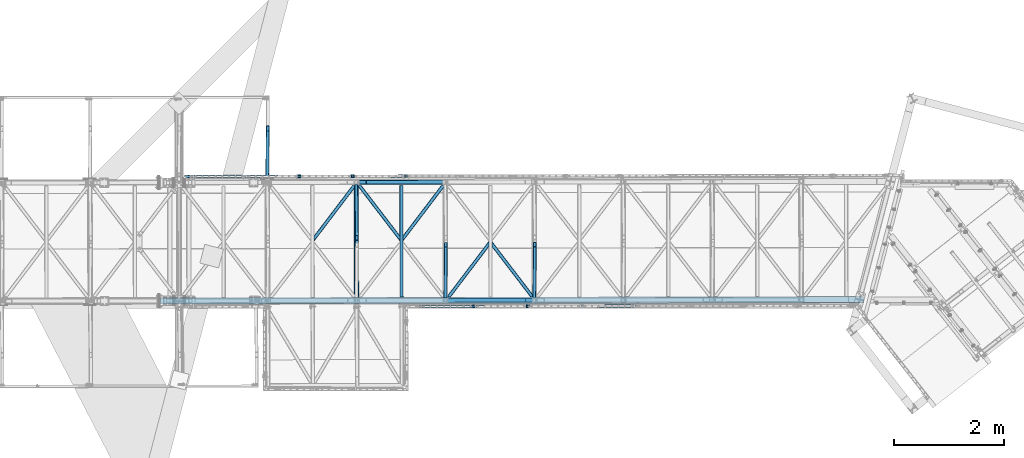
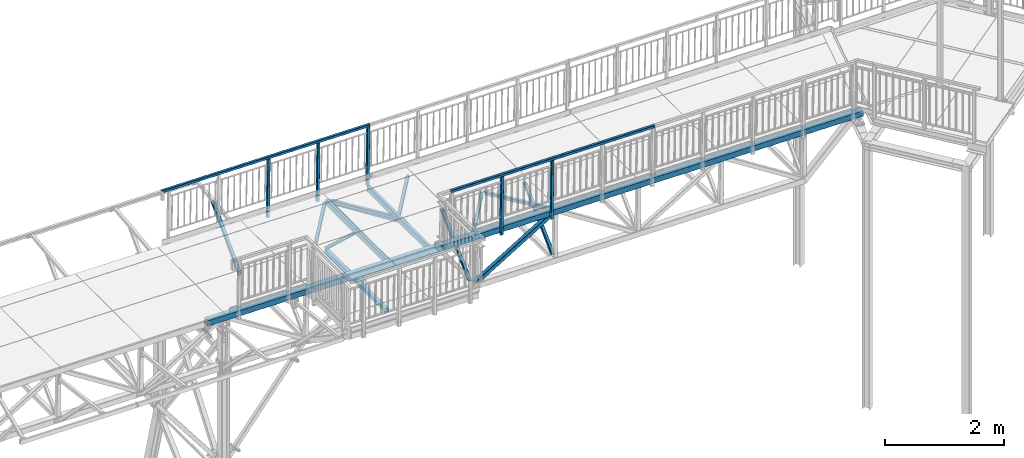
# One storey, part 57 of 169: 22 discrete accessories, 5 elements without a shape of their own.
"""IFC2X3 building model written with IfcOpenShell, lengths in millimetres."""

import ifcopenshell
import ifcopenshell.guid

model = None  # the IFC model being written
_history = None  # IfcOwnerHistory: only IFC2X3 demands one
_inside = {}  # id of a spatial element -> (the spatial element, [elements in it])
_under = {}  # id of a project, library or spatial element -> (it, [spatial elements below it])
_declared = {}  # id of a project -> (the project, [libraries it declares])
_typed = {}  # id of a type object -> (the type object, [elements of that type])
_made_of = {}  # id of a material, layer set ... -> (it, [elements and type objects made of it])


def new_model(schema):
    """Start an empty IFC model of exactly this schema.

    Asked for "IFC4X3", IfcOpenShell would pick the latest addendum, in which some entities
    have other attributes; the version numbers below select the first issue.
    IFC2X3 requires an IfcOwnerHistory on every rooted entity: one is made here for all.
    """
    global model, _history
    if schema == "IFC4X3":
        model = ifcopenshell.file(schema_version=(4, 3, 0, 0))
    else:
        model = ifcopenshell.file(schema=schema)
    _inside.clear()
    _under.clear()
    _declared.clear()
    _typed.clear()
    _made_of.clear()
    _history = None
    if model.schema == "IFC2X3":
        org = make("IfcOrganization", Name="unknown")
        user = make(
            "IfcPersonAndOrganization",
            ThePerson=make("IfcPerson", FamilyName="unknown"),
            TheOrganization=org,
        )
        app = make(
            "IfcApplication",
            ApplicationDeveloper=org,
            Version="unknown",
            ApplicationFullName="unknown",
            ApplicationIdentifier="unknown",
        )
        _history = make(
            "IfcOwnerHistory",
            OwningUser=user,
            OwningApplication=app,
            ChangeAction="ADDED",
            CreationDate=0,
        )
    return model


def make(cls, **values):
    """One entity of the class cls with the attributes given. An attribute that is None is left unset."""
    return model.create_entity(
        cls, **{name: value for name, value in values.items() if value is not None}
    )


def rooted(cls, **values):
    """An entity with a GlobalId (a new one), such as an element, a storey or a relation."""
    return make(cls, GlobalId=ifcopenshell.guid.new(), OwnerHistory=_history, **values)


def si_unit(unit_type, name, prefix=None):
    """IfcSIUnit, for example si_unit("LENGTHUNIT", "METRE", prefix="MILLI")."""
    return make("IfcSIUnit", UnitType=unit_type, Prefix=prefix, Name=name)


def assignment(units):
    """IfcUnitAssignment: the units of a project."""
    return None if units is None else make("IfcUnitAssignment", Units=units)


def point(xyz):
    """IfcCartesianPoint."""
    return None if xyz is None else make("IfcCartesianPoint", Coordinates=xyz)


def direction(xyz):
    """IfcDirection."""
    return None if xyz is None else make("IfcDirection", DirectionRatios=xyz)


def frame(location, z_axis=None, x_axis=None):
    """IfcAxis2Placement3D, a coordinate frame: its origin and axes. An axis left out is left unset."""
    return make(
        "IfcAxis2Placement3D",
        Location=point(location),
        Axis=direction(z_axis),
        RefDirection=direction(x_axis),
    )


def frame_2d(location, x_axis=None):
    """IfcAxis2Placement2D, a coordinate frame in the plane: its origin and x axis."""
    return make(
        "IfcAxis2Placement2D", Location=point(location), RefDirection=direction(x_axis)
    )


def origin_with_axes():
    """The frame at (0, 0, 0) with the z axis (0, 0, 1) and the x axis (1, 0, 0) written out."""
    return frame((0.0, 0.0, 0.0), z_axis=(0.0, 0.0, 1.0), x_axis=(1.0, 0.0, 0.0))


def origin_2d_with_axis():
    """The frame at (0, 0) in the plane with the x axis (1, 0) written out."""
    return frame_2d((0.0, 0.0), x_axis=(1.0, 0.0))


def place(relative_to, where):
    """IfcLocalPlacement: puts the frame where relative to a parent placement (None: the world)."""
    return make(
        "IfcLocalPlacement", PlacementRelTo=relative_to, RelativePlacement=where
    )


def context(
    kind, dimensions, precision=None, world=None, true_north=None, identifier=None
):
    """IfcGeometricRepresentationContext, for example the 3D "Model" context."""
    return make(
        "IfcGeometricRepresentationContext",
        ContextIdentifier=identifier,
        ContextType=kind,
        CoordinateSpaceDimension=dimensions,
        Precision=precision,
        WorldCoordinateSystem=world,
        TrueNorth=true_north,
    )


def subcontext(parent, identifier, kind, view, scale=None):
    """IfcGeometricRepresentationSubContext, for example "Body" below "Model"."""
    return make(
        "IfcGeometricRepresentationSubContext",
        ContextIdentifier=identifier,
        ContextType=kind,
        ParentContext=parent,
        TargetScale=scale,
        TargetView=view,
    )


def project(units=None, contexts=None):
    """IfcProject with its units and contexts."""
    return rooted(
        "IfcProject",
        Name="project",
        RepresentationContexts=contexts,
        UnitsInContext=assignment(units),
    )


def spatial(cls, under=None, at=None, **own):
    """A site, building, storey or space (cls), placed at a placement, below another one or the project."""
    s = rooted(cls, ObjectPlacement=at, **own)
    if under is not None:
        _under.setdefault(under.id(), (under, []))[1].append(s)
    return s


def profile(cls, at=None, kind="AREA", **sizes):
    """A parametric profile (cls). Its sizes go by their IFC names, for example OverallWidth=200.0."""
    return make(cls, ProfileType=kind, Position=at, **sizes)


def rectangle(**sizes):
    """IfcRectangleProfileDef."""
    return profile("IfcRectangleProfileDef", **sizes)


def hollow_rectangle(**sizes):
    """IfcRectangleHollowProfileDef."""
    return profile("IfcRectangleHollowProfileDef", **sizes)


def extrude(swept, where, along, depth):
    """IfcExtrudedAreaSolid: the profile swept, set in the frame where, extruded along a direction by depth."""
    return make(
        "IfcExtrudedAreaSolid",
        SweptArea=swept,
        Position=where,
        ExtrudedDirection=direction(along),
        Depth=depth,
    )


def boolean(op, a, b):
    """IfcBooleanResult of two solids."""
    return make("IfcBooleanResult", Operator=op, FirstOperand=a, SecondOperand=b)


def clip(a, b, op="DIFFERENCE"):
    """IfcBooleanClippingResult: the solid a cut by the half space b."""
    return make(
        "IfcBooleanClippingResult", Operator=op, FirstOperand=a, SecondOperand=b
    )


def halfspace(plane, agree):
    """IfcHalfSpaceSolid: all space on one side of the plane z = 0 of the frame plane."""
    return make(
        "IfcHalfSpaceSolid",
        BaseSurface=make("IfcPlane", Position=plane),
        AgreementFlag=agree,
    )


def shape(context_of_items, identifier, shape_type, items):
    """IfcShapeRepresentation: the items that make up one representation, for example the "Body"."""
    return make(
        "IfcShapeRepresentation",
        ContextOfItems=context_of_items,
        RepresentationIdentifier=identifier,
        RepresentationType=shape_type,
        Items=items,
    )


def material(Name=None, Category=None):
    """IfcMaterial."""
    return make("IfcMaterial", Name=Name, Category=Category)


def made_of(thing, what):
    """Note that an element or type object is made of a material, layer set ...; save() writes the relation."""
    if what is not None:
        _made_of.setdefault(what.id(), (what, []))[1].append(thing)
    return thing


def type_object(cls, material=None, **own):
    """A type object (cls), such as IfcWallType, which elements share."""
    return made_of(rooted(cls, **own), material)


def element(
    cls,
    number,
    at=None,
    inside=None,
    cuts=None,
    type_object=None,
    material=None,
    context=None,
    identifier="Body",
    shape_type=None,
    held_by="IfcProductDefinitionShape",
    body=None,
    shapes=None,
    **own,
):
    """One element of the class cls, such as IfcWall. Its Tag is "e" and its number.

    at: its placement. inside: the storey or other place that contains it. cuts: it is an
    opening in that element (IfcRelVoidsElement). A single representation is given by context,
    identifier, shape_type and body (its items); several are given by shapes. held_by: the class
    of the entity that holds the representations. save() writes the other relations.
    """
    e = rooted(cls, Tag="e%d" % number, ObjectPlacement=at, **own)
    if body is not None:
        shapes = [shape(context, identifier, shape_type, body)]
    if shapes is not None:
        e.Representation = make(held_by, Representations=shapes)
    if inside is not None:
        _inside.setdefault(inside.id(), (inside, []))[1].append(e)
    if cuts is not None:
        rooted(
            "IfcRelVoidsElement", RelatingBuildingElement=cuts, RelatedOpeningElement=e
        )
    if type_object is not None:
        _typed.setdefault(type_object.id(), (type_object, []))[1].append(e)
    return made_of(e, material)


def aggregate(whole, parts):
    """IfcRelAggregates: a whole, such as a stair, and the parts it consists of."""
    return rooted("IfcRelAggregates", RelatingObject=whole, RelatedObjects=parts)


def save(model, path):
    """Write the relations noted so far, then the file.

    IfcRelAggregates (storeys below a building ...), IfcRelContainedInSpatialStructure (elements
    in a storey), IfcRelDefinesByType, IfcRelAssociatesMaterial and IfcRelDeclares: one each for
    every whole, place, type object, material and project.
    """
    for whole, parts in _under.values():
        aggregate(whole, parts)
    for where, things in _inside.values():
        rooted(
            "IfcRelContainedInSpatialStructure",
            RelatedElements=things,
            RelatingStructure=where,
        )
    for kind, things in _typed.values():
        rooted("IfcRelDefinesByType", RelatedObjects=things, RelatingType=kind)
    for what, things in _made_of.values():
        rooted("IfcRelAssociatesMaterial", RelatedObjects=things, RelatingMaterial=what)
    for by, libraries in _declared.values():
        rooted("IfcRelDeclares", RelatingContext=by, RelatedDefinitions=libraries)
    model.write(path)


model = new_model("IFC2X3")

# Units and contexts
model_context = context("Model", 3, precision=1e-05, world=origin_with_axes())
body_context = subcontext(model_context, "Body", "Model", "MODEL_VIEW")
ifc_project = project(units=[si_unit("LENGTHUNIT", "METRE", prefix="MILLI"), si_unit("AREAUNIT", "SQUARE_METRE"), si_unit("VOLUMEUNIT", "CUBIC_METRE"), si_unit("MASSUNIT", "GRAM", prefix="KILO"), si_unit("TIMEUNIT", "SECOND"), si_unit("PLANEANGLEUNIT", "RADIAN"), si_unit("SOLIDANGLEUNIT", "STERADIAN"), si_unit("THERMODYNAMICTEMPERATUREUNIT", "DEGREE_CELSIUS"), si_unit("LUMINOUSINTENSITYUNIT", "LUMEN")], contexts=[model_context])

# Site, building, storey
site_placement = place(None, origin_with_axes())
site = spatial("IfcSite", under=ifc_project, at=site_placement, Name="Undefined", CompositionType="ELEMENT")
building_placement = place(site_placement, origin_with_axes())
building = spatial("IfcBuilding", under=site, at=building_placement, Name="Undefined", CompositionType="ELEMENT")
storey_placement = place(building_placement, origin_with_axes())
storey = spatial("IfcBuildingStorey", under=building, at=storey_placement, Name="Undefined", CompositionType="ELEMENT", Elevation=0.0)

# Assembly, discrete accessory
assembly_1_placement = place(storey_placement, origin_with_axes())
assembly_1 = element("IfcElementAssembly", 1, at=assembly_1_placement, inside=storey, Name="Steel Assembly", AssemblyPlace="NOTDEFINED", PredefinedType="RIGID_FRAME")
ifc_material_1 = material(Name="STEEL/S355")
discrete_accessory_type_1 = type_object("IfcDiscreteAccessoryType", Name="BEAM")
discrete_accessory_1_placement = place(assembly_1_placement, frame((7715.71586938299, 2318.92688619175, 12843.0393475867), z_axis=(-0.999917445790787, -0.00186469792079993, 0.0127131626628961), x_axis=(0.00767090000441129, 0.707122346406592, 0.70704960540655)))
discrete_accessory_1 = element("IfcDiscreteAccessory", 2, at=discrete_accessory_1_placement, type_object=discrete_accessory_type_1, material=ifc_material_1, Name="BEAM", ObjectType="SHS60*3", context=body_context, shape_type="Clipping", body=[
    clip(clip(extrude(hollow_rectangle(XDim=60.0, YDim=60.0, WallThickness=3.0, InnerFilletRadius=3.0, OuterFilletRadius=6.0, at=origin_2d_with_axis()), frame((1369.14752563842, 1.89499235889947e-12, 0.0), z_axis=(-1.0, -3.46944695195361e-18, -1.38777878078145e-17), x_axis=(1.73472347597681e-18, -1.0, 0.0)), (0.0, 0.0, 1.0), 1419.91), halfspace(frame((1329.20790811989, 23.56066933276, 999.999999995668), z_axis=(-0.619044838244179, 0.785355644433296, -1.17904057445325e-10), x_axis=(-0.785355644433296, -0.619044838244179, 2.44605871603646e-10)), True)), halfspace(frame((19.0633294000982, -4.54747350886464e-12, -29.9999999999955), z_axis=(0.707106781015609, 0.707106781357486, 0.0), x_axis=(0.707106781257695, -0.7071067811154, 8.78533101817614e-11)), True)),
])
aggregate(assembly_1, [discrete_accessory_1])

assembly_2_placement = place(storey_placement, origin_with_axes())
assembly_2 = element("IfcElementAssembly", 3, at=assembly_2_placement, inside=storey, Name="Steel Assembly", AssemblyPlace="NOTDEFINED", PredefinedType="RIGID_FRAME")
discrete_accessory_2_placement = place(assembly_2_placement, frame((10939.7171689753, 125.415057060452, 12815.1018988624), z_axis=(-0.516782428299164, -0.000963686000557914, 0.856116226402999), x_axis=(0.856114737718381, 0.00159654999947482, 0.516783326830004)))
discrete_accessory_2 = element("IfcDiscreteAccessory", 4, at=discrete_accessory_2_placement, type_object=discrete_accessory_type_1, material=ifc_material_1, Name="BEAM", ObjectType="K80/4", context=body_context, shape_type="CSG", body=[
    boolean("DIFFERENCE", boolean("DIFFERENCE", boolean("DIFFERENCE", boolean("DIFFERENCE", extrude(hollow_rectangle(XDim=80.0, YDim=80.0, WallThickness=4.0, InnerFilletRadius=4.0, OuterFilletRadius=8.0, at=origin_2d_with_axis()), frame((1895.28365458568, 2.8368149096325e-14, 0.0), z_axis=(-1.0, -3.46944695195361e-18, -1.38777878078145e-17), x_axis=(1.73472347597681e-18, -1.0, 0.0)), (0.0, 0.0, 1.0), 1895.28), extrude(rectangle(XDim=122.0, YDim=122.0, at=origin_2d_with_axis()), frame((3629.06675415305, -2.8717456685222e-06, -1076.88375378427), z_axis=(-0.849477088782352, -3.93457825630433e-11, 0.527625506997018), x_axis=(-0.527625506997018, 2.00772915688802e-10, -0.849477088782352)), (0.0, 0.0, 1.0), 4082.0)), extrude(rectangle(XDim=82.0, YDim=82.0, at=origin_2d_with_axis()), frame((2974.2784408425, -3.47822028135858e-07, 1737.18165073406), z_axis=(-0.527625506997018, 2.00772915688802e-10, -0.849477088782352), x_axis=(1.73472347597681e-18, -1.0, 0.0)), (0.0, 0.0, 1.0), 4090.0)), extrude(rectangle(XDim=82.0, YDim=82.0, at=origin_2d_with_axis()), frame((1095.8775547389, -6.81045717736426e-07, 1764.36290780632), z_axis=(-0.527625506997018, 2.00772915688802e-10, -0.849477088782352), x_axis=(1.73472347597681e-18, -1.0, 0.0)), (0.0, 0.0, 1.0), 4154.0)), extrude(rectangle(XDim=122.0, YDim=122.0, at=origin_2d_with_axis()), frame((1733.78279680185, -2.80958658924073e-06, -1076.88356672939), z_axis=(-0.849477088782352, -3.93457825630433e-11, 0.527625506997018), x_axis=(-0.527625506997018, 2.00772915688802e-10, -0.849477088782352)), (0.0, 0.0, 1.0), 4082.0)),
])

# Assembly, discrete accessories
assembly_3_placement = place(storey_placement, origin_with_axes())
assembly_3 = element("IfcElementAssembly", 5, at=assembly_3_placement, inside=storey, Name="Steel Assembly", AssemblyPlace="NOTDEFINED", PredefinedType="RIGID_FRAME")
discrete_accessory_3_placement = place(assembly_3_placement, frame((11755.3964566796, 1181.93816104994, 13804.7869421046), z_axis=(-0.793802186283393, -0.608092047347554, 0.0101069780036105), x_axis=(0.608043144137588, -0.793866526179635, -0.00771190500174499)))
discrete_accessory_3 = element("IfcDiscreteAccessory", 6, at=discrete_accessory_3_placement, type_object=discrete_accessory_type_1, material=ifc_material_1, Name="BEAM", ObjectType="K60/4", context=body_context, shape_type="CSG", body=[
    boolean("DIFFERENCE", boolean("DIFFERENCE", boolean("DIFFERENCE", extrude(hollow_rectangle(XDim=60.0, YDim=60.0, WallThickness=4.0, InnerFilletRadius=4.0, OuterFilletRadius=8.0, at=origin_2d_with_axis()), frame((1327.04560324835, -1.81783837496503e-12, 1.8913063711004e-12), z_axis=(-1.0, -3.46944695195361e-18, -1.38777878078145e-17), x_axis=(1.73472347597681e-18, -1.0, 0.0)), (0.0, 0.0, 1.0), 1317.77), extrude(rectangle(XDim=122.0, YDim=122.0, at=origin_2d_with_axis()), frame((2559.07206009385, 0.000108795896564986, -1614.6431455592), z_axis=(-0.606610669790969, 1.9093520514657e-10, 0.794999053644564), x_axis=(1.73472347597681e-18, -1.0, 0.0)), (0.0, 0.0, 1.0), 4062.0)), extrude(rectangle(XDim=62.0, YDim=122.0, at=origin_2d_with_axis()), frame((-311.447359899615, 7.92361939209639e-07, -1250.22452235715), z_axis=(0.794999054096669, -5.08714775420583e-10, 0.606610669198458), x_axis=(0.606610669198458, -3.85695368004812e-10, -0.79499905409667)), (0.0, 0.0, 1.0), 4122.0)), halfspace(frame((813.19737539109, -1.17615854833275e-08, 582.760697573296), z_axis=(0.606610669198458, -3.85695368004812e-10, -0.79499905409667), x_axis=(0.0, 1.0, 0.0)), True)),
])
discrete_accessory_4_placement = place(assembly_3_placement, frame((10952.4303090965, 125.438913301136, 13815.0210833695), z_axis=(0.796064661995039, -0.605127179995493, -0.0101069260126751), x_axis=(0.605078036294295, 0.796128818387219, -0.00771197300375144)))
discrete_accessory_4 = element("IfcDiscreteAccessory", 7, at=discrete_accessory_4_placement, type_object=discrete_accessory_type_1, material=ifc_material_1, Name="BEAM", ObjectType="K60/4", context=body_context, shape_type="CSG", body=[
    boolean("DIFFERENCE", boolean("DIFFERENCE", boolean("DIFFERENCE", extrude(hollow_rectangle(XDim=60.0, YDim=60.0, WallThickness=4.0, InnerFilletRadius=4.0, OuterFilletRadius=8.0, at=origin_2d_with_axis()), frame((1317.88045895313, 1.14307908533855e-15, -1.87685778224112e-12), z_axis=(-1.0, -3.46944695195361e-18, -1.38777878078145e-17), x_axis=(1.73472347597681e-18, -1.0, 0.0)), (0.0, 0.0, 1.0), 1317.88), extrude(rectangle(XDim=122.0, YDim=122.0, at=origin_2d_with_axis()), frame((1232.02617983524, 0.000108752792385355, 1614.64314702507), z_axis=(-0.606610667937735, 2.83045446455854e-10, -0.794999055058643), x_axis=(1.73472347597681e-18, -1.0, 0.0)), (0.0, 0.0, 1.0), 4062.0)), extrude(rectangle(XDim=62.0, YDim=122.0, at=origin_2d_with_axis()), frame((1638.49296551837, -1.93246750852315e-06, -1250.22451956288), z_axis=(-0.794999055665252, -4.2238609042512e-08, 0.606610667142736), x_axis=(0.606610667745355, -4.65838344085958e-10, 0.794999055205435)), (0.0, 0.0, 1.0), 4122.0)), halfspace(frame((513.848229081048, 1.26783561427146e-08, 582.760696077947), z_axis=(-0.606610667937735, 2.83045446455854e-10, -0.794999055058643), x_axis=(1.73472347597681e-18, -1.0, 0.0)), True)),
])
discrete_accessory_5_placement = place(assembly_3_placement, frame((10145.4733828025, 1208.93594444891, 13825.2551319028), z_axis=(0.796064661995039, -0.605127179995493, -0.0101069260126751), x_axis=(0.605078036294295, 0.796128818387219, -0.00771197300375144)))
discrete_accessory_5 = element("IfcDiscreteAccessory", 8, at=discrete_accessory_5_placement, type_object=discrete_accessory_type_1, material=ifc_material_1, Name="BEAM", ObjectType="K60/4", context=body_context, shape_type="CSG", body=[
    boolean("DIFFERENCE", boolean("DIFFERENCE", boolean("DIFFERENCE", extrude(hollow_rectangle(XDim=60.0, YDim=60.0, WallThickness=4.0, InnerFilletRadius=4.0, OuterFilletRadius=8.0, at=origin_2d_with_axis()), frame((1327.04560324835, -1.81783837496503e-12, 1.8913063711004e-12), z_axis=(-1.0, -3.46944695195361e-18, -1.38777878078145e-17), x_axis=(1.73472347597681e-18, -1.0, 0.0)), (0.0, 0.0, 1.0), 1317.88), extrude(rectangle(XDim=122.0, YDim=122.0, at=origin_2d_with_axis()), frame((2559.07166903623, 0.000108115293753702, 1614.64301073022), z_axis=(-0.606610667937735, 2.83045446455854e-10, -0.794999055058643), x_axis=(0.0, 1.0, 0.0)), (0.0, 0.0, 1.0), 4062.0)), extrude(rectangle(XDim=62.0, YDim=122.0, at=origin_2d_with_axis()), frame((2965.5386644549, -2.59535426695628e-06, -1250.22459037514), z_axis=(-0.794999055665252, -4.2238609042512e-08, 0.606610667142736), x_axis=(0.606610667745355, -4.65838344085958e-10, 0.794999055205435)), (0.0, 0.0, 1.0), 4122.0)), halfspace(frame((-776.800733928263, -1.5232217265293e-08, 630.460639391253), z_axis=(0.606610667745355, -4.65838344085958e-10, 0.794999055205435), x_axis=(0.0, 1.0, 0.0)), True)),
])
discrete_accessory_6_placement = place(assembly_3_placement, frame((9338.57240253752, 2262.43302776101, 13835.4891818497), z_axis=(-0.793802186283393, -0.608092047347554, 0.0101069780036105), x_axis=(0.608043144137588, -0.793866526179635, -0.00771190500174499)))
discrete_accessory_6 = element("IfcDiscreteAccessory", 9, at=discrete_accessory_6_placement, type_object=discrete_accessory_type_1, material=ifc_material_1, Name="BEAM", ObjectType="K60/4", context=body_context, shape_type="CSG", body=[
    boolean("DIFFERENCE", boolean("DIFFERENCE", boolean("DIFFERENCE", extrude(hollow_rectangle(XDim=60.0, YDim=60.0, WallThickness=4.0, InnerFilletRadius=4.0, OuterFilletRadius=8.0, at=origin_2d_with_axis()), frame((1317.7688721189, 1.14298229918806e-15, -1.89206883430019e-12), z_axis=(-1.0, -3.46944695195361e-18, -1.38777878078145e-17), x_axis=(1.73472347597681e-18, -1.0, 0.0)), (0.0, 0.0, 1.0), 1317.77), extrude(rectangle(XDim=122.0, YDim=122.0, at=origin_2d_with_axis()), frame((1232.02636237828, 0.000109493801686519, -1614.64300936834), z_axis=(-0.606610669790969, 1.9093520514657e-10, 0.794999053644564), x_axis=(0.0, 1.0, 0.0)), (0.0, 0.0, 1.0), 4062.0)), extrude(rectangle(XDim=62.0, YDim=122.0, at=origin_2d_with_axis()), frame((-1638.49305022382, 1.48884142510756e-06, -1250.22459069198), z_axis=(0.794999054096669, -5.08714775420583e-10, 0.606610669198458), x_axis=(0.606610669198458, -3.85695368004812e-10, -0.79499905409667)), (0.0, 0.0, 1.0), 4122.0)), halfspace(frame((2103.84633729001, 1.13759597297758e-08, 630.460640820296), z_axis=(-0.606610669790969, 1.9093520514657e-10, 0.794999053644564), x_axis=(1.73472347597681e-18, -1.0, 0.0)), True)),
])
discrete_accessory_7_placement = place(assembly_3_placement, frame((10147.4967447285, 123.93783108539, 13825.2551787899), z_axis=(0.012713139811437, 2.3750999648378e-05, 0.999919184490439), x_axis=(-0.0018648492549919, 0.999998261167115, -4.2996762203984e-08)))
discrete_accessory_7 = element("IfcDiscreteAccessory", 10, at=discrete_accessory_7_placement, type_object=discrete_accessory_type_1, material=ifc_material_1, Name="BEAM", ObjectType="RHS120*60*3", context=body_context, shape_type="Clipping", body=[
    clip(clip(extrude(hollow_rectangle(XDim=60.0, YDim=120.0, WallThickness=3.0, InnerFilletRadius=3.0, OuterFilletRadius=6.0, at=origin_2d_with_axis()), frame((2079.99988425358, -2.58114747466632e-16, -1.81898421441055e-12), z_axis=(-1.0, -3.46944695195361e-18, -1.38777878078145e-17), x_axis=(1.73472347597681e-18, -1.0, 0.0)), (0.0, 0.0, 1.0), 2020.0), halfspace(frame((2079.99984112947, 4.96547727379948e-08, 999.999997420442), z_axis=(-1.0, -3.46944695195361e-18, -1.38777878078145e-17), x_axis=(1.73472347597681e-18, -1.0, 0.0)), True)), halfspace(frame((59.9998947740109, 1.52502366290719e-08, 999.99999999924), z_axis=(1.0, 0.0, 0.0), x_axis=(0.0, 1.0, 0.0)), True)),
])
discrete_accessory_8_placement = place(assembly_3_placement, frame((8535.60625441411, 1205.93378001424, 13845.7233229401), z_axis=(0.796064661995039, -0.605127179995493, -0.0101069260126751), x_axis=(0.605078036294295, 0.796128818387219, -0.00771197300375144)))
discrete_accessory_8 = element("IfcDiscreteAccessory", 11, at=discrete_accessory_8_placement, type_object=discrete_accessory_type_1, material=ifc_material_1, Name="BEAM", ObjectType="K60/4", context=body_context, shape_type="CSG", body=[
    boolean("DIFFERENCE", boolean("DIFFERENCE", boolean("DIFFERENCE", extrude(hollow_rectangle(XDim=60.0, YDim=60.0, WallThickness=4.0, InnerFilletRadius=4.0, OuterFilletRadius=8.0, at=origin_2d_with_axis()), frame((1327.04560324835, -1.81783837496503e-12, 1.8913063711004e-12), z_axis=(-1.0, -3.46944695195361e-18, -1.38777878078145e-17), x_axis=(1.73472347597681e-18, -1.0, 0.0)), (0.0, 0.0, 1.0), 1317.88), extrude(rectangle(XDim=122.0, YDim=122.0, at=origin_2d_with_axis()), frame((2559.07166903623, 0.000108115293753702, 1614.64301073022), z_axis=(-0.606610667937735, 2.83045446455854e-10, -0.794999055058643), x_axis=(0.0, 1.0, 0.0)), (0.0, 0.0, 1.0), 4062.0)), extrude(rectangle(XDim=62.0, YDim=122.0, at=origin_2d_with_axis()), frame((2965.5386644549, -2.59535426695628e-06, -1250.22459037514), z_axis=(-0.794999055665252, -4.2238609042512e-08, 0.606610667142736), x_axis=(0.606610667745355, -4.65838344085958e-10, 0.794999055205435)), (0.0, 0.0, 1.0), 4122.0)), halfspace(frame((-776.800733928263, -1.5232217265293e-08, 630.460639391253), z_axis=(0.606610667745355, -4.65838344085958e-10, 0.794999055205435), x_axis=(0.0, 1.0, 0.0)), True)),
])
discrete_accessory_9_placement = place(assembly_3_placement, frame((5750.85994070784, 115.738647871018, 13881.1550602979), z_axis=(0.00186484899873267, -0.999998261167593, 4.28757666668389e-08), x_axis=(0.9999174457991, 0.00186469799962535, -0.0127131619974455)))
discrete_accessory_9 = element("IfcDiscreteAccessory", 12, at=discrete_accessory_9_placement, type_object=discrete_accessory_type_1, material=ifc_material_1, Name="BEAM", ObjectType="RHS120*4", context=body_context, shape_type="Clipping", body=[
    clip(extrude(hollow_rectangle(XDim=120.0, YDim=120.0, WallThickness=4.0, InnerFilletRadius=4.0, OuterFilletRadius=8.0, at=origin_2d_with_axis()), frame((12756.6907213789, -2.21293308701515e-14, -4.05778272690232e-15), z_axis=(-1.0, -3.46944695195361e-18, -1.38777878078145e-17), x_axis=(1.73472347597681e-18, -1.0, 0.0)), (0.0, 0.0, 1.0), 12721.19), halfspace(frame((35.5000000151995, 5.45696821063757e-11, -60.0000000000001), z_axis=(1.0, 0.0, 0.0), x_axis=(1.73472347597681e-18, -1.0, 0.0)), True)),
])
discrete_accessory_10_placement = place(assembly_3_placement, frame((12549.5842978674, 128.417326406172, 12794.6337077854), z_axis=(-0.0105615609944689, 0.682786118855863, -0.730541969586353), x_axis=(0.00731813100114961, 0.730615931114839, 0.682749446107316)))
discrete_accessory_10 = element("IfcDiscreteAccessory", 13, at=discrete_accessory_10_placement, type_object=discrete_accessory_type_1, material=ifc_material_1, Name="BEAM", ObjectType="K60/4", context=body_context, shape_type="CSG", body=[
    boolean("DIFFERENCE", boolean("DIFFERENCE", boolean("DIFFERENCE", boolean("DIFFERENCE", extrude(hollow_rectangle(XDim=60.0, YDim=60.0, WallThickness=4.0, InnerFilletRadius=4.0, OuterFilletRadius=8.0, at=origin_2d_with_axis()), frame((1409.62306429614, 2.44530622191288e-15, -3.48147920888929e-12), z_axis=(-1.0, -3.46944695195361e-18, -1.38777878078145e-17), x_axis=(1.73472347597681e-18, -1.0, 0.0)), (0.0, 0.0, 1.0), 1409.62), extrude(rectangle(XDim=122.0, YDim=122.0, at=origin_2d_with_axis()), frame((-3.0605420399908e-06, 2029.999999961, -0.000155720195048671), z_axis=(1.73472347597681e-18, -1.0, 0.0), x_axis=(-0.682804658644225, 7.91412114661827e-10, 0.730600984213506)), (0.0, 0.0, 1.0), 4060.0)), extrude(rectangle(XDim=82.0, YDim=82.0, at=origin_2d_with_axis()), frame((1491.15653144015, 6.98136768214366e-07, 1393.60423636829), z_axis=(-0.730600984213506, -8.41296776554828e-11, -0.682804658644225), x_axis=(0.0, 1.0, 0.0)), (0.0, 0.0, 1.0), 4082.0)), extrude(rectangle(XDim=82.0, YDim=82.0, at=origin_2d_with_axis()), frame((1393.60423162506, -1.60659598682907e-06, -1491.15668038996), z_axis=(-0.682804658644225, 7.91412114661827e-10, 0.730600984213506), x_axis=(-0.730600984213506, -8.41296776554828e-11, -0.682804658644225)), (0.0, 0.0, 1.0), 4082.0)), halfspace(frame((2154.18041553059, 4.7799403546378e-08, 726.64071778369), z_axis=(-0.682804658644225, 7.91412114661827e-10, 0.730600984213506), x_axis=(1.73472347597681e-18, -1.0, 0.0)), True)),
])
discrete_accessory_11_placement = place(assembly_3_placement, frame((10939.7171694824, 125.415161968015, 12815.1018988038), z_axis=(-0.0105615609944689, 0.682786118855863, -0.730541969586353), x_axis=(0.00731813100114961, 0.730615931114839, 0.682749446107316)))
discrete_accessory_11 = element("IfcDiscreteAccessory", 14, at=discrete_accessory_11_placement, type_object=discrete_accessory_type_1, material=ifc_material_1, Name="BEAM", ObjectType="K60/4", context=body_context, shape_type="CSG", body=[
    boolean("DIFFERENCE", boolean("DIFFERENCE", boolean("DIFFERENCE", boolean("DIFFERENCE", extrude(hollow_rectangle(XDim=60.0, YDim=60.0, WallThickness=4.0, InnerFilletRadius=4.0, OuterFilletRadius=8.0, at=origin_2d_with_axis()), frame((1409.62306429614, 2.44530622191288e-15, -3.48147920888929e-12), z_axis=(-1.0, -3.46944695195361e-18, -1.38777878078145e-17), x_axis=(1.73472347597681e-18, -1.0, 0.0)), (0.0, 0.0, 1.0), 1409.62), extrude(rectangle(XDim=122.0, YDim=122.0, at=origin_2d_with_axis()), frame((-3.0605420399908e-06, 2029.999999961, -0.000155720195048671), z_axis=(1.73472347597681e-18, -1.0, 0.0), x_axis=(-0.682804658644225, 7.91412114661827e-10, 0.730600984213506)), (0.0, 0.0, 1.0), 4060.0)), extrude(rectangle(XDim=82.0, YDim=82.0, at=origin_2d_with_axis()), frame((1491.15653144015, 6.98136768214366e-07, 1393.60423636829), z_axis=(-0.730600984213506, -8.41296776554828e-11, -0.682804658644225), x_axis=(0.0, 1.0, 0.0)), (0.0, 0.0, 1.0), 4082.0)), extrude(rectangle(XDim=82.0, YDim=82.0, at=origin_2d_with_axis()), frame((1393.60423162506, -1.60659598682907e-06, -1491.15668038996), z_axis=(-0.682804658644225, 7.91412114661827e-10, 0.730600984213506), x_axis=(-0.730600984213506, -8.41296776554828e-11, -0.682804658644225)), (0.0, 0.0, 1.0), 4082.0)), halfspace(frame((2154.18041553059, 4.7799403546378e-08, 726.64071778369), z_axis=(-0.682804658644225, 7.91412114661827e-10, 0.730600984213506), x_axis=(1.73472347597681e-18, -1.0, 0.0)), True)),
])
discrete_accessory_12_placement = place(assembly_3_placement, frame((9340.56779166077, 1192.43488835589, 13835.4892281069), z_axis=(-0.00801490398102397, -0.682820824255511, -0.730541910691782), x_axis=(-0.0100430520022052, 0.730583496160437, -0.682749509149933)))
discrete_accessory_12 = element("IfcDiscreteAccessory", 15, at=discrete_accessory_12_placement, type_object=discrete_accessory_type_1, material=ifc_material_1, Name="BEAM", ObjectType="K60/4", context=body_context, shape_type="CSG", body=[
    boolean("DIFFERENCE", boolean("DIFFERENCE", boolean("DIFFERENCE", boolean("DIFFERENCE", extrude(hollow_rectangle(XDim=60.0, YDim=60.0, WallThickness=4.0, InnerFilletRadius=4.0, OuterFilletRadius=8.0, at=origin_2d_with_axis()), frame((1464.54771171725, -2.54058529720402e-15, 1.73769067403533e-12), z_axis=(-1.0, -3.46944695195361e-18, -1.38777878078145e-17), x_axis=(1.73472347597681e-18, -1.0, 0.0)), (0.0, 0.0, 1.0), 1409.7), extrude(rectangle(XDim=122.0, YDim=122.0, at=origin_2d_with_axis()), frame((1464.54763377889, 2029.99999998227, -7.71977473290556e-05), z_axis=(1.73472347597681e-18, -1.0, 0.0), x_axis=(0.682804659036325, -5.74226128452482e-10, 0.730600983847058)), (0.0, 0.0, 1.0), 4060.0)), extrude(rectangle(XDim=82.0, YDim=82.0, at=origin_2d_with_axis()), frame((2955.70431769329, 3.22820304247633e-06, -1393.60430822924), z_axis=(-0.730600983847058, -6.40306815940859e-10, 0.682804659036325), x_axis=(0.0, 1.0, 0.0)), (0.0, 0.0, 1.0), 4082.0)), extrude(rectangle(XDim=82.0, YDim=82.0, at=origin_2d_with_axis()), frame((70.9434023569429, 1.26172341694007e-06, -1491.15660917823), z_axis=(0.682804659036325, -5.74226128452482e-10, 0.730600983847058), x_axis=(-0.730600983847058, -6.40306815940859e-10, 0.682804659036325)), (0.0, 0.0, 1.0), 4082.0)), halfspace(frame((-689.632704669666, -3.43825377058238e-08, 726.640717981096), z_axis=(0.682804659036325, -5.74226128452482e-10, 0.730600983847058), x_axis=(0.0, 1.0, 0.0)), True)),
])

# Discrete accessory
discrete_accessory_13_placement = place(assembly_2_placement, frame((9338.57240253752, 2262.43302776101, 13835.4891818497), z_axis=(0.538381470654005, 0.00100403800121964, 0.842700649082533), x_axis=(0.842699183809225, 0.00157148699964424, -0.538382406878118)))
discrete_accessory_13 = element("IfcDiscreteAccessory", 16, at=discrete_accessory_13_placement, type_object=discrete_accessory_type_1, material=ifc_material_1, Name="BEAM", ObjectType="K80/4", context=body_context, shape_type="CSG", body=[
    boolean("DIFFERENCE", boolean("DIFFERENCE", boolean("DIFFERENCE", boolean("DIFFERENCE", extrude(hollow_rectangle(XDim=80.0, YDim=80.0, WallThickness=4.0, InnerFilletRadius=4.0, OuterFilletRadius=8.0, at=origin_2d_with_axis()), frame((1895.28365458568, 2.8368149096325e-14, 0.0), z_axis=(-1.0, -3.46944695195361e-18, -1.38777878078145e-17), x_axis=(1.73472347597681e-18, -1.0, 0.0)), (0.0, 0.0, 1.0), 1895.28), extrude(rectangle(XDim=122.0, YDim=122.0, at=origin_2d_with_axis()), frame((1733.7826800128, -0.000115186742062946, 1076.8837541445), z_axis=(-0.849477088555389, 2.61340201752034e-10, -0.527625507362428), x_axis=(-0.527625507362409, 4.58604519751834e-10, 0.849477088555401)), (0.0, 0.0, 1.0), 4082.0)), extrude(rectangle(XDim=82.0, YDim=82.0, at=origin_2d_with_axis()), frame((-1087.43611182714, 3.77681572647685e-07, 1750.77218633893), z_axis=(0.527625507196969, -3.47074672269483e-10, -0.849477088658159), x_axis=(1.73472347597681e-18, -1.0, 0.0)), (0.0, 0.0, 1.0), 4122.0)), extrude(rectangle(XDim=82.0, YDim=82.0, at=origin_2d_with_axis()), frame((807.847426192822, 1.91307743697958e-07, 1750.77237320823), z_axis=(0.527625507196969, -3.47074672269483e-10, -0.849477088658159), x_axis=(1.73472347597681e-18, -1.0, 0.0)), (0.0, 0.0, 1.0), 4122.0)), extrude(rectangle(XDim=122.0, YDim=122.0, at=origin_2d_with_axis()), frame((3629.23882569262, -3.99359470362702e-06, 1076.99089160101), z_axis=(-0.849477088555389, 2.61340201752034e-10, -0.527625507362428), x_axis=(0.527625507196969, -3.47074672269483e-10, -0.849477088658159)), (0.0, 0.0, 1.0), 4082.41)),
])

aggregate(assembly_2, [discrete_accessory_2, discrete_accessory_13])

discrete_accessory_14_placement = place(assembly_3_placement, frame((9329.85004109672, 122.412997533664, 12835.5700898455), z_axis=(0.012713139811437, 2.3750999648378e-05, 0.999919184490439), x_axis=(-0.0018648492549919, 0.999998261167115, -4.2996762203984e-08)))
discrete_accessory_14 = element("IfcDiscreteAccessory", 17, at=discrete_accessory_14_placement, type_object=discrete_accessory_type_1, material=ifc_material_1, Name="BEAM", ObjectType="K80/4", context=body_context, shape_type="Clipping", body=[
    clip(clip(extrude(hollow_rectangle(XDim=80.0, YDim=80.0, WallThickness=4.0, InnerFilletRadius=4.0, OuterFilletRadius=8.0, at=origin_2d_with_axis()), frame((2079.99999999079, 5.70364343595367e-14, -1.83064995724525e-18), z_axis=(-1.0, -3.46944695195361e-18, -1.38777878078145e-17), x_axis=(1.73472347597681e-18, -1.0, 0.0)), (0.0, 0.0, 1.0), 2020.0), halfspace(frame((2079.99999986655, -1.53990526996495e-08, 999.999999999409), z_axis=(-1.0, -3.46944695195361e-18, -1.38777878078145e-17), x_axis=(1.73472347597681e-18, -1.0, 0.0)), True)), halfspace(frame((59.9998947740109, 1.52502366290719e-08, 999.99999999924), z_axis=(1.0, 0.0, 0.0), x_axis=(0.0, 1.0, 0.0)), True)),
])

discrete_accessory_15_placement = place(assembly_3_placement, frame((9342.56318070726, 122.436748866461, 13835.4892744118), z_axis=(0.012713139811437, 2.3750999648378e-05, 0.999919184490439), x_axis=(-0.0018648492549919, 0.999998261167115, -4.2996762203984e-08)))
discrete_accessory_15 = element("IfcDiscreteAccessory", 18, at=discrete_accessory_15_placement, type_object=discrete_accessory_type_1, material=ifc_material_1, Name="BEAM", ObjectType="RHS120*60*3", context=body_context, shape_type="Clipping", body=[
    clip(clip(extrude(hollow_rectangle(XDim=60.0, YDim=120.0, WallThickness=3.0, InnerFilletRadius=3.0, OuterFilletRadius=6.0, at=origin_2d_with_axis()), frame((2079.99988425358, -2.58114747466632e-16, -1.81898421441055e-12), z_axis=(-1.0, -3.46944695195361e-18, -1.38777878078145e-17), x_axis=(1.73472347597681e-18, -1.0, 0.0)), (0.0, 0.0, 1.0), 2020.0), halfspace(frame((2079.99984112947, 4.96547727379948e-08, 999.999997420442), z_axis=(-1.0, -3.46944695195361e-18, -1.38777878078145e-17), x_axis=(1.73472347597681e-18, -1.0, 0.0)), True)), halfspace(frame((59.9998947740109, 1.52502366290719e-08, 999.99999999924), z_axis=(1.0, 0.0, 0.0), x_axis=(0.0, 1.0, 0.0)), True)),
])

aggregate(assembly_3, [discrete_accessory_3, discrete_accessory_4, discrete_accessory_5, discrete_accessory_6, discrete_accessory_7, discrete_accessory_8, discrete_accessory_9, discrete_accessory_10, discrete_accessory_11, discrete_accessory_12, discrete_accessory_14, discrete_accessory_15])

# Assembly, discrete accessory
assembly_4_placement = place(storey_placement, origin_with_axes())
assembly_4 = element("IfcElementAssembly", 19, at=assembly_4_placement, inside=storey, Name="Steel Assembly", AssemblyPlace="NOTDEFINED", PredefinedType="RIGID_FRAME")
ifc_material_2 = material(Name="STEEL/S235")
discrete_accessory_type_2 = type_object("IfcDiscreteAccessoryType", Name="PORĘCZ")
discrete_accessory_16_placement = place(assembly_4_placement, frame((10257.3176182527, 2374.14648664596, 14983.8993125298), z_axis=(0.00186484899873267, -0.999998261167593, 4.28757666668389e-08), x_axis=(-0.999917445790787, -0.00186469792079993, 0.0127131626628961)))
discrete_accessory_16 = element("IfcDiscreteAccessory", 20, at=discrete_accessory_16_placement, type_object=discrete_accessory_type_2, material=ifc_material_2, Name="PORĘCZ", ObjectType="SHS50*3", context=body_context, shape_type="Clipping", body=[
    clip(extrude(hollow_rectangle(XDim=50.0, YDim=50.0, WallThickness=3.0, InnerFilletRadius=3.0, OuterFilletRadius=6.0, at=origin_2d_with_axis()), frame((4042.85813146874, -7.01324091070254e-15, 9.96185920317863e-16), z_axis=(-1.0, -3.46944695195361e-18, -1.38777878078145e-17), x_axis=(1.73472347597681e-18, -1.0, 0.0)), (0.0, 0.0, 1.0), 4042.86), halfspace(frame((4041.77783445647, -25.0000000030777, -5.54564394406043e-09), z_axis=(-0.707106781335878, -0.707106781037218, 2.34571939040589e-10), x_axis=(-2.54700353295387e-10, 0.0, -1.0)), True)),
])

# Assembly, discrete accessories
assembly_5_placement = place(storey_placement, origin_with_axes())
assembly_5 = element("IfcElementAssembly", 21, at=assembly_5_placement, inside=storey, Name="Steel Assembly", AssemblyPlace="NOTDEFINED", PredefinedType="RIGID_FRAME")
discrete_accessory_17_placement = place(assembly_5_placement, frame((10362.166681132, 14.3379104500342, 14982.6222970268), z_axis=(-0.0018648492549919, 0.999998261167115, -4.2996762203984e-08), x_axis=(0.9999174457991, 0.00186469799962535, -0.0127131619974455)))
discrete_accessory_17 = element("IfcDiscreteAccessory", 22, at=discrete_accessory_17_placement, type_object=discrete_accessory_type_2, material=ifc_material_2, Name="PORĘCZ", ObjectType="SHS50*3", context=body_context, shape_type="Clipping", body=[
    clip(clip(extrude(hollow_rectangle(XDim=50.0, YDim=50.0, WallThickness=3.0, InnerFilletRadius=3.0, OuterFilletRadius=6.0, at=origin_2d_with_axis()), frame((4055.16286117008, -1.81195481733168e-12, 1.89443708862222e-15), z_axis=(-1.0, -3.46944695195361e-18, -1.38777878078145e-17), x_axis=(1.73472347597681e-18, -1.0, 0.0)), (0.0, 0.0, 1.0), 3950.0), halfspace(frame((4055.16286042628, -8.34916136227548e-10, 1000.00000000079), z_axis=(-1.0, -3.46944695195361e-18, -1.38777878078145e-17), x_axis=(1.73472347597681e-18, -1.0, 0.0)), True)), halfspace(frame((105.16286049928, -1.94631866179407e-09, 1000.00000000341), z_axis=(1.0, 0.0, 0.0), x_axis=(0.0, 1.0, 0.0)), True)),
])
discrete_accessory_type_3 = type_object("IfcDiscreteAccessoryType", Name="STANCHION")
discrete_accessory_18_placement = place(assembly_5_placement, frame((12428.1733621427, 18.1906598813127, 13856.2657466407), z_axis=(0.00186484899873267, -0.999998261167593, 4.28757666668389e-08), x_axis=(0.012713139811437, 2.3750999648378e-05, 0.999919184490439)))
discrete_accessory_18 = element("IfcDiscreteAccessory", 23, at=discrete_accessory_18_placement, type_object=discrete_accessory_type_3, material=ifc_material_2, Name="STANCHION", ObjectType="SHS50*3", context=body_context, shape_type="Clipping", body=[
    clip(clip(extrude(hollow_rectangle(XDim=50.0, YDim=50.0, WallThickness=3.0, InnerFilletRadius=3.0, OuterFilletRadius=6.0, at=origin_2d_with_axis()), frame((1074.99999999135, -5.68489533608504e-14, -9.13224357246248e-13), z_axis=(-1.0, -3.46944695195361e-18, -1.38777878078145e-17), x_axis=(1.73472347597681e-18, -1.0, 0.0)), (0.0, 0.0, 1.0), 1195.0), halfspace(frame((1075.00000000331, 25.0000002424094, 2.62741739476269e-09), z_axis=(1.0, 0.0, 0.0), x_axis=(0.0, 0.0, 1.0)), False)), halfspace(frame((-120.000000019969, -1025.00000000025, -5.14306819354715e-10), z_axis=(1.0, 0.0, 0.0), x_axis=(0.0, 0.0, 1.0)), True)),
])

# Discrete accessory
discrete_accessory_19_placement = place(assembly_4_placement, frame((8285.10592024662, 2370.46855665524, 13908.8855251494), z_axis=(-0.0018648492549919, 0.999998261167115, -4.2996762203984e-08), x_axis=(0.012713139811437, 2.3750999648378e-05, 0.999919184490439)))
discrete_accessory_19 = element("IfcDiscreteAccessory", 24, at=discrete_accessory_19_placement, type_object=discrete_accessory_type_3, material=ifc_material_2, Name="STANCHION", ObjectType="SHS50*3", context=body_context, shape_type="Clipping", body=[
    clip(clip(extrude(hollow_rectangle(XDim=50.0, YDim=50.0, WallThickness=3.0, InnerFilletRadius=3.0, OuterFilletRadius=6.0, at=origin_2d_with_axis()), frame((1074.99999999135, -5.68489533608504e-14, -9.13224357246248e-13), z_axis=(-1.0, -3.46944695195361e-18, -1.38777878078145e-17), x_axis=(1.73472347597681e-18, -1.0, 0.0)), (0.0, 0.0, 1.0), 1195.0), halfspace(frame((1074.99999999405, -25.000000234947, -7.63429852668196e-09), z_axis=(1.0, 0.0, 0.0), x_axis=(0.0, 0.0, 1.0)), False)), halfspace(frame((-120.000000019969, -1025.00000000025, -5.14306819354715e-10), z_axis=(1.0, 0.0, 0.0), x_axis=(0.0, 0.0, 1.0)), True)),
])

discrete_accessory_20_placement = place(assembly_4_placement, frame((9251.72057417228, 2372.27114987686, 13896.595781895), z_axis=(-0.0018648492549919, 0.999998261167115, -4.2996762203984e-08), x_axis=(0.012713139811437, 2.3750999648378e-05, 0.999919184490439)))
discrete_accessory_20 = element("IfcDiscreteAccessory", 25, at=discrete_accessory_20_placement, type_object=discrete_accessory_type_3, material=ifc_material_2, Name="STANCHION", ObjectType="SHS50*3", context=body_context, shape_type="Clipping", body=[
    clip(clip(extrude(hollow_rectangle(XDim=50.0, YDim=50.0, WallThickness=3.0, InnerFilletRadius=3.0, OuterFilletRadius=6.0, at=origin_2d_with_axis()), frame((1074.99999999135, -5.68489533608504e-14, -9.13224357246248e-13), z_axis=(-1.0, -3.46944695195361e-18, -1.38777878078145e-17), x_axis=(1.73472347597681e-18, -1.0, 0.0)), (0.0, 0.0, 1.0), 1195.0), halfspace(frame((1074.99999999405, -25.000000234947, -7.63429852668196e-09), z_axis=(1.0, 0.0, 0.0), x_axis=(0.0, 0.0, 1.0)), False)), halfspace(frame((-120.000000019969, -1025.00000000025, -5.14306819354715e-10), z_axis=(1.0, 0.0, 0.0), x_axis=(0.0, 0.0, 1.0)), True)),
])

discrete_accessory_21_placement = place(assembly_4_placement, frame((10218.3352280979, 2374.07374309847, 13884.3060386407), z_axis=(-0.0018648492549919, 0.999998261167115, -4.2996762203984e-08), x_axis=(0.012713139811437, 2.3750999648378e-05, 0.999919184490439)))
discrete_accessory_21 = element("IfcDiscreteAccessory", 26, at=discrete_accessory_21_placement, type_object=discrete_accessory_type_3, material=ifc_material_2, Name="STANCHION", ObjectType="SHS50*3", context=body_context, shape_type="Clipping", body=[
    clip(clip(extrude(hollow_rectangle(XDim=50.0, YDim=50.0, WallThickness=3.0, InnerFilletRadius=3.0, OuterFilletRadius=6.0, at=origin_2d_with_axis()), frame((1074.99999999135, -5.68489533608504e-14, -9.13224357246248e-13), z_axis=(-1.0, -3.46944695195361e-18, -1.38777878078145e-17), x_axis=(1.73472347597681e-18, -1.0, 0.0)), (0.0, 0.0, 1.0), 1195.0), halfspace(frame((1074.99999999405, -25.000000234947, -7.63429852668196e-09), z_axis=(1.0, 0.0, 0.0), x_axis=(0.0, 0.0, 1.0)), False)), halfspace(frame((-120.000000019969, -1025.00000000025, -5.14306819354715e-10), z_axis=(1.0, 0.0, 0.0), x_axis=(0.0, 0.0, 1.0)), True)),
])

aggregate(assembly_4, [discrete_accessory_16, discrete_accessory_19, discrete_accessory_20, discrete_accessory_21])

discrete_accessory_22_placement = place(assembly_5_placement, frame((11453.2538524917, 16.3725793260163, 13868.6610795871), z_axis=(0.00186484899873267, -0.999998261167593, 4.28757666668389e-08), x_axis=(0.012713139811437, 2.3750999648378e-05, 0.999919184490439)))
discrete_accessory_22 = element("IfcDiscreteAccessory", 27, at=discrete_accessory_22_placement, type_object=discrete_accessory_type_3, material=ifc_material_2, Name="STANCHION", ObjectType="SHS50*3", context=body_context, shape_type="Clipping", body=[
    clip(clip(extrude(hollow_rectangle(XDim=50.0, YDim=50.0, WallThickness=3.0, InnerFilletRadius=3.0, OuterFilletRadius=6.0, at=origin_2d_with_axis()), frame((1074.99999999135, -5.68489533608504e-14, -9.13224357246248e-13), z_axis=(-1.0, -3.46944695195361e-18, -1.38777878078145e-17), x_axis=(1.73472347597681e-18, -1.0, 0.0)), (0.0, 0.0, 1.0), 1195.0), halfspace(frame((1075.00000000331, 25.0000002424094, 2.62741739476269e-09), z_axis=(1.0, 0.0, 0.0), x_axis=(0.0, 0.0, 1.0)), False)), halfspace(frame((-120.000000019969, -1025.00000000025, -5.14306819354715e-10), z_axis=(1.0, 0.0, 0.0), x_axis=(0.0, 0.0, 1.0)), True)),
])

aggregate(assembly_5, [discrete_accessory_18, discrete_accessory_17, discrete_accessory_22])

save(model, "model.ifc")
